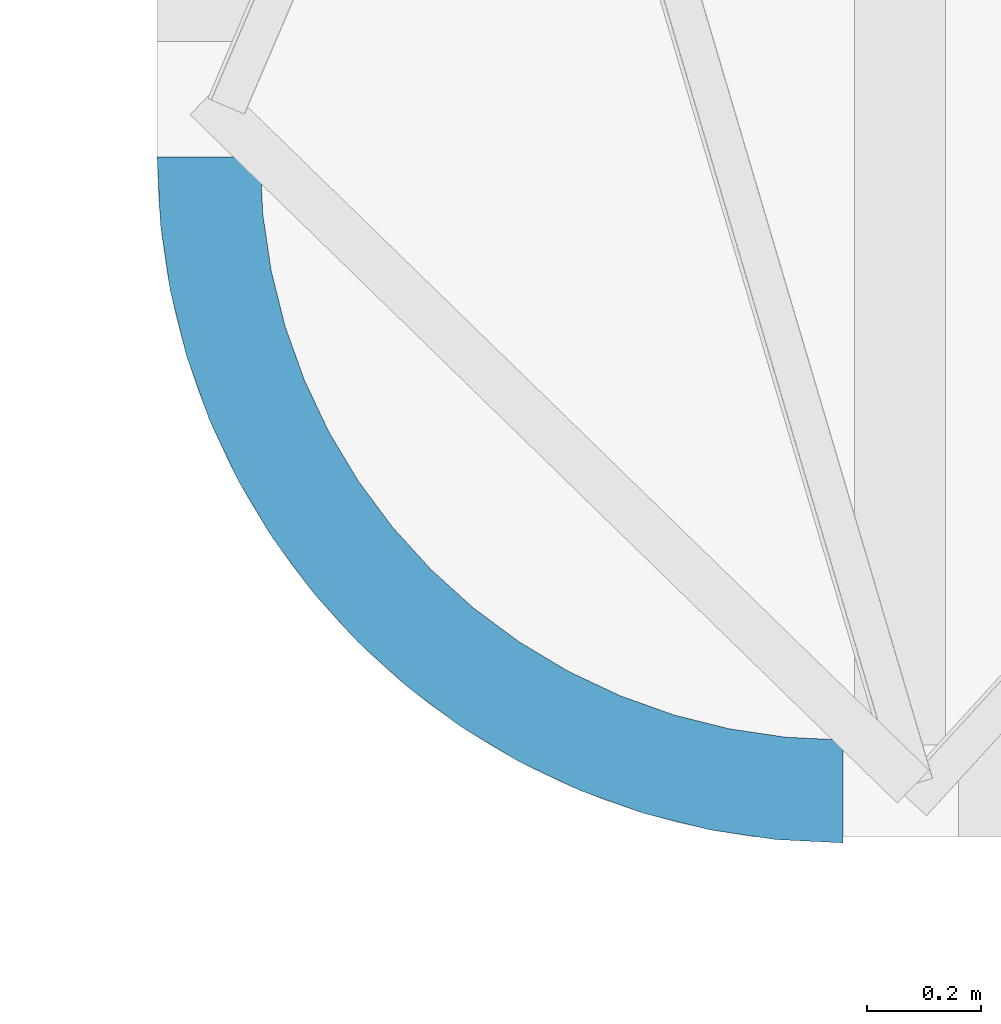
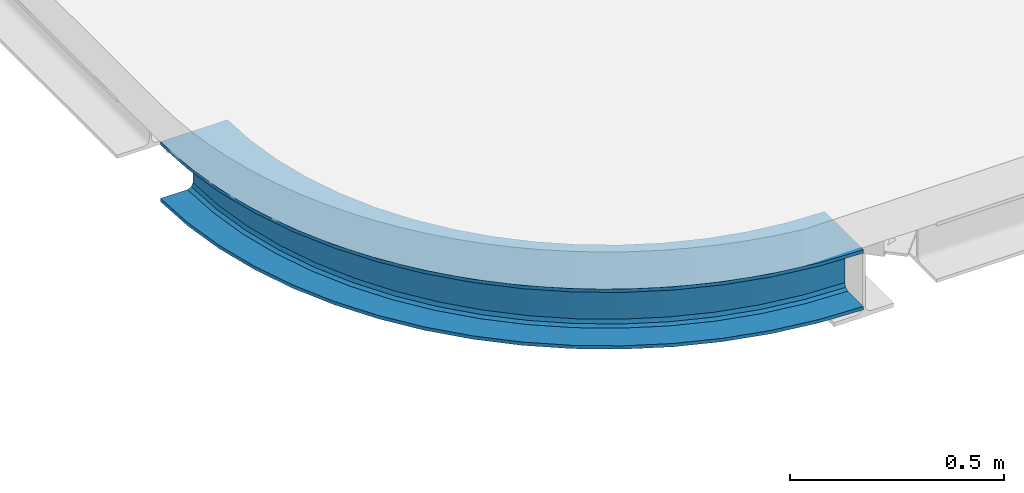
# One storey, part 11 of 14: 1 beam.
"""IFC2X3 building model written with IfcOpenShell, lengths in millimetres."""

from ifc_helpers import new_model, entity, si_unit, converted_unit, derived_unit, direction, frame, origin, place, context, subcontext, project, spatial, faceted_brep, material, type_object, element, save


model = new_model("IFC2X3")

# Units and contexts
model_context = context("Model", 3, precision=0.01, world=origin(), true_north=direction((6.123031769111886e-17, 1.0)))
body_context = subcontext(model_context, "Body", "Model", "MODEL_VIEW")
ifc_project = project(units=[si_unit("LENGTHUNIT", "METRE", prefix="MILLI"), si_unit("AREAUNIT", "SQUARE_METRE"), si_unit("VOLUMEUNIT", "CUBIC_METRE"), derived_unit("MASSDENSITYUNIT", [(si_unit("MASSUNIT", "GRAM", prefix="KILO"), 1), (si_unit("LENGTHUNIT", "METRE"), -3)]), si_unit("MASSUNIT", "GRAM", prefix="KILO"), converted_unit("PLANEANGLEUNIT", "DEGREE", entity("IfcPlaneAngleMeasure", 0.017453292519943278), si_unit("PLANEANGLEUNIT", "RADIAN"), dimensions=[0, 0, 0, 0, 0, 0, 0])], contexts=[model_context])

# Site, building, storey
site_placement = place(None, origin())
site = spatial("IfcSite", under=ifc_project, at=site_placement, Name="Default", CompositionType="ELEMENT")
building_placement = place(site_placement, origin())
building = spatial("IfcBuilding", under=site, at=building_placement, Name="AT constructie", CompositionType="ELEMENT")
storey_placement = place(building_placement, frame((0.0, 0.0, 12043.0)))
storey = spatial("IfcBuildingStorey", under=building, at=storey_placement, Name="03 derde verdieping", CompositionType="ELEMENT", Elevation=12043.0)

# Beam
ifc_material = material(Name="h2_staal_S355")
beam_type = type_object("IfcBeamType", Name="balk HE_gen_HEA180", PredefinedType="NOTDEFINED")
beam_placement = place(storey_placement, frame((85626.87463111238, 24351.04350852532, 0.0), z_axis=(0.0, 0.0, -1.0), x_axis=(-1.0, 0.0, 0.0)))
element("IfcBeam", 1, at=beam_placement, inside=storey, type_object=beam_type, material=ifc_material, Name="NLRS_28_SF_LIB_balk HEA_gen_AT:balk HE_gen_HEA180", ObjectType="NLRS_28_SF_LIB_balk HEA_gen_AT:balk HE_gen_HEA180", context=body_context, shape_type="Brep", body=[
    faceted_brep([(1194.2216720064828, -117.62056839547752, 0.0), (1015.0884212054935, -99.97748313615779, 0.0), (1020.0, 0.0, 0.0), (1200.0, 0.0, 0.0), (1015.0884212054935, -99.97748313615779, 9.500000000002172), (1020.0, 0.0, 9.500000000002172), (1086.741721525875, -107.03471723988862, 9.500000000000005), (1092.0, 0.0, 9.500000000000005), (1097.297249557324, -108.0743460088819, 13.893398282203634), (1102.6066017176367, 0.0, 13.893398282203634), (1101.6694924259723, -108.50497434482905, 24.500000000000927), (1107.0, 0.0, 24.500000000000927), (1101.6694924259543, -108.50497434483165, 146.50000000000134), (1107.0, 0.0, 146.50000000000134), (1097.297249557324, -108.0743460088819, 157.10660171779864), (1102.6066017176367, 0.0, 157.10660171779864), (1086.7417215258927, -107.03471723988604, 161.50000000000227), (1092.0, 0.0, 161.50000000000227), (1015.0884212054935, -99.97748313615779, 161.50000000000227), (1020.0, 0.0, 161.50000000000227), (1015.0884212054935, -99.97748313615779, 171.0), (1020.0, 0.0, 171.0), (1194.2216720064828, -117.62056839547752, 171.0), (1200.0, 0.0, 171.0), (1194.2216720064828, -117.62056839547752, 161.50000000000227), (1200.0, 0.0, 161.50000000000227), (1122.5683716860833, -110.5633342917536, 161.50000000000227), (1128.0, 0.0, 161.50000000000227), (1112.012843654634, -109.52370552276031, 157.10660171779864), (1117.393398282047, 0.0, 157.10660171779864), (1107.6406007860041, -109.09307718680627, 146.50000000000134), (1113.0, 0.0, 146.50000000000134), (1107.6406007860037, -109.09307718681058, 24.500000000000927), (1113.0, 0.0, 24.500000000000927), (1112.012843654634, -109.52370552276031, 13.893398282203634), (1117.393398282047, 0.0, 13.893398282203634), (1122.5683716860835, -110.5633342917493, 9.500000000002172), (1128.0, 0.0, 9.500000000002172), (1194.2216720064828, -117.62056839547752, 9.500000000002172), (1200.0, 0.0, 9.500000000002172), (1176.942336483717, -234.10838641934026, 0.0), (1000.4009860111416, -198.99212845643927, 0.0), (1000.4009860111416, -198.99212845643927, 9.500000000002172), (1071.0175262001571, -213.0386316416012, 9.500000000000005), (1081.4203250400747, -215.1078769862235, 13.893398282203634), (1085.7293054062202, -215.96498647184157, 24.500000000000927), (1085.7293054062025, -215.96498647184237, 146.50000000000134), (1081.4203250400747, -215.1078769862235, 157.10660171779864), (1071.0175262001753, -213.03863164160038, 161.50000000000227), (1000.4009860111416, -198.99212845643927, 161.50000000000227), (1000.4009860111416, -198.99212845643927, 171.0), (1176.942336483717, -234.10838641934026, 171.0), (1176.942336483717, -234.10838641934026, 161.50000000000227), (1106.3257962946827, -220.06188323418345, 161.50000000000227), (1095.9229974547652, -217.99263788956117, 157.10660171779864), (1091.6140170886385, -217.13552840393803, 146.50000000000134), (1091.6140170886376, -217.13552840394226, 24.500000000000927), (1095.9229974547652, -217.99263788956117, 13.893398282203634), (1106.3257962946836, -220.06188323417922, 9.500000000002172), (1176.942336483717, -234.10838641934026, 9.500000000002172), (1148.32840287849, -348.34161270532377, 0.0), (976.079142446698, -296.0903707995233, 0.0), (976.079142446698, -296.0903707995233, 9.500000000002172), (1044.9788466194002, -316.9908675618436, 9.500000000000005), (1055.1287316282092, -320.0698015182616, 13.893398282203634), (1059.3329516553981, -321.34513772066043, 24.500000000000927), (1059.33295165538, -321.34513772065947, 146.50000000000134), (1055.1287316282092, -320.0698015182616, 157.10660171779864), (1044.978846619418, -316.99086756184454, 161.50000000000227), (976.079142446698, -296.0903707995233, 161.50000000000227), (976.079142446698, -296.0903707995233, 171.0), (1148.32840287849, -348.34161270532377, 171.0), (1148.32840287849, -348.34161270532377, 161.50000000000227), (1079.4286987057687, -327.44111594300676, 161.50000000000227), (1069.2788136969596, -324.3621819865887, 157.10660171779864), (1065.07459366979, -323.0868457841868, 146.50000000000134), (1065.0745936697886, -323.0868457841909, 24.500000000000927), (1069.2788136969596, -324.3621819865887, 13.893398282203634), (1079.4286987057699, -327.4411159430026, 9.500000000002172), (1148.32840287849, -348.34161270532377, 9.500000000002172), (1108.6554390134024, -459.220118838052, 0.0), (942.3571231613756, -390.3371010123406, 0.0), (942.3571231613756, -390.3371010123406, 9.500000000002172), (1008.8764495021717, -417.89030814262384, 9.500000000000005), (1018.6756717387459, -421.94927889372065, 13.893398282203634), (1022.7346424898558, -423.63055962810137, 24.500000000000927), (1022.7346424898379, -423.63055962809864, 146.50000000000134), (1018.6756717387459, -421.94927889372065, 157.10660171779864), (1008.8764495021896, -417.8903081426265, 161.50000000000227), (942.3571231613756, -390.3371010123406, 161.50000000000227), (942.3571231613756, -390.3371010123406, 171.0), (1108.6554390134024, -459.220118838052, 171.0), (1108.6554390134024, -459.220118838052, 161.50000000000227), (1042.136112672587, -431.6669117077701, 161.50000000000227), (1032.3368904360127, -427.6079409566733, 157.10660171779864), (1028.2779196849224, -425.9266602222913, 146.50000000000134), (1028.2779196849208, -425.92666022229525, 24.500000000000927), (1032.3368904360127, -427.6079409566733, 13.893398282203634), (1042.1361126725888, -431.66691170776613, 9.500000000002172), (1108.6554390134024, -459.220118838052, 9.500000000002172), (1058.3055172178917, -565.6760841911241, 0.0), (899.5596896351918, -480.8246715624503, 0.0), (899.5596896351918, -480.8246715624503, 9.500000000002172), (963.0580206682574, -514.7652366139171, 9.500000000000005), (972.4122082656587, -519.7651540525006, 13.893398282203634), (976.2868396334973, -521.8361876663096, 24.500000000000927), (976.28683963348, -521.8361876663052, 146.50000000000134), (972.4122082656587, -519.7651540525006, 157.10660171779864), (963.0580206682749, -514.7652366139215, 161.50000000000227), (899.5596896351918, -480.8246715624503, 161.50000000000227), (899.5596896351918, -480.8246715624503, 171.0), (1058.3055172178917, -565.6760841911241, 171.0), (1058.3055172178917, -565.6760841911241, 161.50000000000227), (994.8071861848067, -531.7355191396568, 161.50000000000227), (985.4529985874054, -526.7356017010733, 157.10660171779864), (981.5783672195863, -524.6645680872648, 146.50000000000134), (981.5783672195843, -524.6645680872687, 24.500000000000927), (985.4529985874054, -526.7356017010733, 13.893398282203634), (994.8071861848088, -531.735519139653, 9.500000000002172), (1058.3055172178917, -565.6760841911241, 9.500000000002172), (997.7635347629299, -666.6842796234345, 0.0), (848.0990045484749, -566.6816376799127, 0.0), (848.0990045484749, -566.6816376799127, 9.500000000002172), (907.964816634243, -606.6826944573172, 9.500000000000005), (916.7838836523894, -612.575406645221, 13.893398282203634), (920.4368608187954, -615.0162479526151, 24.500000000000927), (920.4368608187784, -615.0162479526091, 146.50000000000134), (916.7838836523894, -612.575406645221, 157.10660171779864), (907.9648166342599, -606.6826944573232, 161.50000000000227), (848.0990045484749, -566.6816376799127, 161.50000000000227), (848.0990045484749, -566.6816376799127, 171.0), (997.7635347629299, -666.6842796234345, 171.0), (997.7635347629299, -666.6842796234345, 161.50000000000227), (937.8977226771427, -626.6832228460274, 161.50000000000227), (929.0786556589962, -620.7905106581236, 157.10660171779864), (925.4256784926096, -618.3496693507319, 146.50000000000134), (925.4256784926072, -618.3496693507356, 24.500000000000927), (929.0786556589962, -620.7905106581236, 13.893398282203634), (937.8977226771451, -626.6832228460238, 9.500000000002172), (997.7635347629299, -666.6842796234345, 9.500000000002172), (927.6125440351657, -761.2719409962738, 0.0), (788.4706624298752, -647.0811498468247, 0.0), (788.4706624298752, -647.0811498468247, 9.500000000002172), (844.1274150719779, -692.7574663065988, 9.500000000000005), (852.3264290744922, -699.4862232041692, 13.893398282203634), (855.7225718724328, -702.2733655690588, 24.500000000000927), (855.7225718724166, -702.2733655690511, 146.50000000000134), (852.3264290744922, -699.4862232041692, 157.10660171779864), (844.1274150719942, -692.7574663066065, 161.50000000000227), (788.4706624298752, -647.0811498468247, 161.50000000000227), (788.4706624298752, -647.0811498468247, 171.0), (927.6125440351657, -761.2719409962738, 171.0), (927.6125440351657, -761.2719409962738, 161.50000000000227), (871.9557913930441, -715.5956245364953, 161.50000000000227), (863.7567773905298, -708.8668676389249, 157.10660171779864), (860.3606345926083, -706.0797252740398, 146.50000000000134), (860.3606345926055, -706.0797252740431, 24.500000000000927), (863.7567773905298, -708.8668676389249, 13.893398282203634), (871.9557913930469, -715.595624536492, 9.500000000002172), (927.6125440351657, -761.2719409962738, 9.500000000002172), (848.5281374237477, -848.5281374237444, 0.0), (721.2489168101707, -721.2489168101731, 0.0), (721.2489168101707, -721.2489168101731, 9.500000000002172), (772.1606050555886, -772.1606050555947, 9.500000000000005), (779.6606050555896, -779.6606050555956, 13.893398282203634), (782.7672067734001, -782.7672067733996, 24.500000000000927), (782.7672067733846, -782.7672067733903, 146.50000000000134), (779.6606050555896, -779.6606050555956, 157.10660171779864), (772.160605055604, -772.160605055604, 161.50000000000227), (721.2489168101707, -721.2489168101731, 161.50000000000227), (721.2489168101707, -721.2489168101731, 171.0), (848.5281374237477, -848.5281374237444, 171.0), (848.5281374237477, -848.5281374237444, 161.50000000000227), (797.6164491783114, -797.6164491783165, 161.50000000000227), (790.1164491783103, -790.1164491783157, 157.10660171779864), (787.0098474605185, -787.0098474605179, 146.50000000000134), (787.0098474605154, -787.009847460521, 24.500000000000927), (790.1164491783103, -790.1164491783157, 13.893398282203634), (797.6164491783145, -797.6164491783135, 9.500000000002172), (848.5281374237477, -848.5281374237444, 9.500000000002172), (761.27194099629, -927.6125440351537, 0.0), (647.0811498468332, -788.4706624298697, 0.0), (647.0811498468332, -788.4706624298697, 9.500000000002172), (692.7574663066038, -844.1274150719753, 9.500000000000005), (699.4862232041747, -852.3264290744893, 13.893398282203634), (702.2733655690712, -855.7225718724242, 24.500000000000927), (702.2733655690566, -855.7225718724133, 146.50000000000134), (699.4862232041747, -852.3264290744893, 157.10660171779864), (692.7574663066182, -844.127415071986, 161.50000000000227), (647.0811498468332, -788.4706624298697, 161.50000000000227), (647.0811498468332, -788.4706624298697, 171.0), (761.27194099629, -927.6125440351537, 171.0), (761.27194099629, -927.6125440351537, 161.50000000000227), (715.5956245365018, -871.9557913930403, 161.50000000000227), (708.866867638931, -863.7567773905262, 157.10660171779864), (706.0797252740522, -860.3606345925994, 146.50000000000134), (706.0797252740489, -860.3606345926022, 24.500000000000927), (708.866867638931, -863.7567773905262, 13.893398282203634), (715.595624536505, -871.9557913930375, 9.500000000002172), (761.27194099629, -927.6125440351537, 9.500000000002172), (666.6842796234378, -997.7635347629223, 0.0), (566.6816376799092, -848.0990045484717, 0.0), (566.6816376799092, -848.0990045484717, 9.500000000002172), (606.6826944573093, -907.9648166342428, 9.500000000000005), (612.5754066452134, -916.7838836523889, 13.893398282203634), (615.016247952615, -920.43686081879, 24.500000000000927), (615.0162479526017, -920.4368608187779, 146.50000000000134), (612.5754066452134, -916.7838836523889, 157.10660171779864), (606.6826944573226, -907.9648166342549, 161.50000000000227), (566.6816376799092, -848.0990045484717, 161.50000000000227), (566.6816376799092, -848.0990045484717, 171.0), (666.6842796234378, -997.7635347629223, 171.0), (666.6842796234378, -997.7635347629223, 161.50000000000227), (626.6832228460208, -937.8977226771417, 161.50000000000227), (620.7905106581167, -929.0786556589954, 157.10660171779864), (618.349669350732, -925.4256784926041, 146.50000000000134), (618.3496693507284, -925.4256784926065, 24.500000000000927), (620.7905106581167, -929.0786556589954, 13.893398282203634), (626.6832228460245, -937.8977226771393, 9.500000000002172), (666.6842796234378, -997.7635347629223, 9.500000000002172), (565.6760841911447, -1058.3055172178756, 0.0), (480.8246715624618, -899.5596896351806, 0.0), (480.8246715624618, -899.5596896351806, 9.500000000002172), (514.7652366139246, -963.0580206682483, 9.500000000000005), (519.7651540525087, -972.4122082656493, 13.893398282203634), (521.8361876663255, -976.2868396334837, 24.500000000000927), (521.8361876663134, -976.2868396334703, 146.50000000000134), (519.7651540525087, -972.4122082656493, 157.10660171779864), (514.7652366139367, -963.0580206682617, 161.50000000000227), (480.8246715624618, -899.5596896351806, 161.50000000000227), (480.8246715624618, -899.5596896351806, 171.0), (565.6760841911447, -1058.3055172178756, 171.0), (565.6760841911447, -1058.3055172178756, 161.50000000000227), (531.735519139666, -994.8071861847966, 161.50000000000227), (526.735601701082, -985.4529985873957, 157.10660171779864), (524.664568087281, -981.5783672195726, 146.50000000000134), (524.6645680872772, -981.5783672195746, 24.500000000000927), (526.735601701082, -985.4529985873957, 13.893398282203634), (531.7355191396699, -994.8071861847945, 9.500000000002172), (565.6760841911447, -1058.3055172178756, 9.500000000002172), (459.22011883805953, -1108.655439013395, 0.0), (390.3371010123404, -942.3571231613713, 0.0), (390.3371010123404, -942.3571231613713, 9.500000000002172), (417.89030814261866, -1008.8764495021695, 9.500000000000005), (421.94927889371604, -1018.6756717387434, 13.893398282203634), (423.6305596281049, -1022.73464248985, 24.500000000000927), (423.6305596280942, -1022.7346424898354, 146.50000000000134), (421.94927889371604, -1018.6756717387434, 157.10660171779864), (417.8903081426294, -1008.876449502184, 161.50000000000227), (390.3371010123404, -942.3571231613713, 161.50000000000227), (390.3371010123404, -942.3571231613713, 171.0), (459.22011883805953, -1108.655439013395, 171.0), (459.22011883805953, -1108.655439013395, 161.50000000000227), (431.6669117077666, -1042.136112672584, 161.50000000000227), (427.60794095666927, -1032.33689043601, 157.10660171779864), (425.9266602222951, -1028.2779196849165, 146.50000000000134), (425.9266602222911, -1028.277919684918, 24.500000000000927), (427.60794095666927, -1032.33689043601, 13.893398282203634), (431.66691170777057, -1042.1361126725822, 9.500000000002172), (459.22011883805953, -1108.655439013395, 9.500000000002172), (348.3416127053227, -1148.3284028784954, 0.0), (296.0903707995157, -976.0791424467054, 0.0), (296.0903707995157, -976.0791424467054, 9.500000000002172), (316.9908675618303, -1044.9788466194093, 9.500000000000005), (320.0698015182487, -1055.128731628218, 13.893398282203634), (321.3451377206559, -1059.3329516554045, 24.500000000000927), (321.3451377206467, -1059.332951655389, 146.50000000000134), (320.0698015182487, -1055.128731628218, 157.10660171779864), (316.9908675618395, -1044.9788466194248, 161.50000000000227), (296.0903707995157, -976.0791424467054, 161.50000000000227), (296.0903707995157, -976.0791424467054, 171.0), (348.3416127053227, -1148.3284028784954, 171.0), (348.3416127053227, -1148.3284028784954, 161.50000000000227), (327.4411159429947, -1079.4286987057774, 161.50000000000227), (324.3621819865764, -1069.2788136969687, 157.10660171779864), (323.08684578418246, -1065.0745936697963, 146.50000000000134), (323.0868457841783, -1065.0745936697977, 24.500000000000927), (324.3621819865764, -1069.2788136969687, 13.893398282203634), (327.44111594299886, -1079.4286987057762, 9.500000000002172), (348.3416127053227, -1148.3284028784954, 9.500000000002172), (234.10838641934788, -1176.9423364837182, 0.0), (198.99212845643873, -1000.4009860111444, 0.0), (198.99212845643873, -1000.4009860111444, 9.500000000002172), (213.0386316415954, -1071.0175262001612, 9.500000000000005), (215.10787698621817, -1081.4203250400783, 13.893398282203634), (215.96498647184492, -1085.7293054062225, 24.500000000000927), (215.96498647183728, -1085.7293054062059, 146.50000000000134), (215.10787698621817, -1081.4203250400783, 157.10660171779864), (213.03863164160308, -1071.0175262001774, 161.50000000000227), (198.99212845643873, -1000.4009860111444, 161.50000000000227), (198.99212845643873, -1000.4009860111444, 171.0), (234.10838641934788, -1176.9423364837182, 171.0), (234.10838641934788, -1176.9423364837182, 161.50000000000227), (220.0618832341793, -1106.3257962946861, 161.50000000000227), (217.99263788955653, -1095.9229974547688, 157.10660171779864), (217.13552840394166, -1091.6140170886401, 146.50000000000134), (217.13552840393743, -1091.614017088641, 24.500000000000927), (217.99263788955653, -1095.9229974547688, 13.893398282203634), (220.06188323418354, -1106.3257962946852, 9.500000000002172), (234.10838641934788, -1176.9423364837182, 9.500000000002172), (117.62056839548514, -1194.2216720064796, 0.0), (99.97748313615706, -1015.0884212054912, 0.0), (99.97748313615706, -1015.0884212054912, 9.500000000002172), (107.03471723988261, -1086.7417215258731, 9.500000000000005), (108.07434600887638, -1097.2972495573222, 13.893398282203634), (108.50497434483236, -1101.6694924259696, 24.500000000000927), (108.50497434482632, -1101.6694924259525, 146.50000000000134), (108.07434600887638, -1097.2972495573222, 157.10660171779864), (107.03471723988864, -1086.74172152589, 161.50000000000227), (99.97748313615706, -1015.0884212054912, 161.50000000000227), (99.97748313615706, -1015.0884212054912, 171.0), (117.62056839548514, -1194.2216720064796, 171.0), (117.62056839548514, -1194.2216720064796, 161.50000000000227), (110.56333429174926, -1122.568371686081, 161.50000000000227), (109.52370552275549, -1112.0128436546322, 157.10660171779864), (109.09307718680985, -1107.6406007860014, 146.50000000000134), (109.09307718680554, -1107.6406007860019, 24.500000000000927), (109.52370552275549, -1112.0128436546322, 13.893398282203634), (110.56333429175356, -1122.5683716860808, 9.500000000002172), (117.62056839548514, -1194.2216720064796, 9.500000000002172), (0.0, -1200.0, 0.0), (0.0, -1020.0, 0.0), (0.0, -1020.0, 9.500000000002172), (0.0, -1092.0, 9.500000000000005), (0.0, -1102.6066017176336, 13.893398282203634), (0.0, -1107.0, 24.500000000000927), (0.0, -1107.0, 146.50000000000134), (0.0, -1102.6066017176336, 157.10660171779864), (0.0, -1092.0, 161.50000000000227), (0.0, -1020.0, 161.50000000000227), (0.0, -1020.0, 171.0), (0.0, -1200.0, 171.0), (0.0, -1200.0, 161.50000000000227), (0.0, -1128.0, 161.50000000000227), (0.0, -1117.3933982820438, 157.10660171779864), (0.0, -1113.0, 146.50000000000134), (0.0, -1113.0, 24.500000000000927), (0.0, -1117.3933982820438, 13.893398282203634), (0.0, -1128.0, 9.500000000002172), (0.0, -1200.0, 9.500000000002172)], [[[0, 1, 2, 3]], [[1, 4, 5, 2]], [[4, 6, 7, 5]], [[6, 8, 9, 7]], [[8, 10, 11, 9]], [[10, 12, 13, 11]], [[12, 14, 15, 13]], [[14, 16, 17, 15]], [[16, 18, 19, 17]], [[18, 20, 21, 19]], [[20, 22, 23, 21]], [[22, 24, 25, 23]], [[24, 26, 27, 25]], [[26, 28, 29, 27]], [[28, 30, 31, 29]], [[30, 32, 33, 31]], [[32, 34, 35, 33]], [[34, 36, 37, 35]], [[36, 38, 39, 37]], [[38, 0, 3, 39]], [[40, 41, 1, 0]], [[41, 42, 4, 1]], [[42, 43, 6, 4]], [[43, 44, 8, 6]], [[44, 45, 10, 8]], [[45, 46, 12, 10]], [[46, 47, 14, 12]], [[47, 48, 16, 14]], [[48, 49, 18, 16]], [[49, 50, 20, 18]], [[50, 51, 22, 20]], [[51, 52, 24, 22]], [[52, 53, 26, 24]], [[53, 54, 28, 26]], [[54, 55, 30, 28]], [[55, 56, 32, 30]], [[56, 57, 34, 32]], [[57, 58, 36, 34]], [[58, 59, 38, 36]], [[59, 40, 0, 38]], [[60, 61, 41, 40]], [[61, 62, 42, 41]], [[62, 63, 43, 42]], [[63, 64, 44, 43]], [[64, 65, 45, 44]], [[65, 66, 46, 45]], [[66, 67, 47, 46]], [[67, 68, 48, 47]], [[68, 69, 49, 48]], [[69, 70, 50, 49]], [[70, 71, 51, 50]], [[71, 72, 52, 51]], [[72, 73, 53, 52]], [[73, 74, 54, 53]], [[74, 75, 55, 54]], [[75, 76, 56, 55]], [[76, 77, 57, 56]], [[77, 78, 58, 57]], [[78, 79, 59, 58]], [[79, 60, 40, 59]], [[80, 81, 61, 60]], [[81, 82, 62, 61]], [[82, 83, 63, 62]], [[83, 84, 64, 63]], [[84, 85, 65, 64]], [[85, 86, 66, 65]], [[86, 87, 67, 66]], [[87, 88, 68, 67]], [[88, 89, 69, 68]], [[89, 90, 70, 69]], [[90, 91, 71, 70]], [[91, 92, 72, 71]], [[92, 93, 73, 72]], [[93, 94, 74, 73]], [[94, 95, 75, 74]], [[95, 96, 76, 75]], [[96, 97, 77, 76]], [[97, 98, 78, 77]], [[98, 99, 79, 78]], [[99, 80, 60, 79]], [[100, 101, 81, 80]], [[101, 102, 82, 81]], [[102, 103, 83, 82]], [[103, 104, 84, 83]], [[104, 105, 85, 84]], [[105, 106, 86, 85]], [[106, 107, 87, 86]], [[107, 108, 88, 87]], [[108, 109, 89, 88]], [[109, 110, 90, 89]], [[110, 111, 91, 90]], [[111, 112, 92, 91]], [[112, 113, 93, 92]], [[113, 114, 94, 93]], [[114, 115, 95, 94]], [[115, 116, 96, 95]], [[116, 117, 97, 96]], [[117, 118, 98, 97]], [[118, 119, 99, 98]], [[119, 100, 80, 99]], [[120, 121, 101, 100]], [[121, 122, 102, 101]], [[122, 123, 103, 102]], [[123, 124, 104, 103]], [[124, 125, 105, 104]], [[125, 126, 106, 105]], [[126, 127, 107, 106]], [[127, 128, 108, 107]], [[128, 129, 109, 108]], [[129, 130, 110, 109]], [[130, 131, 111, 110]], [[131, 132, 112, 111]], [[132, 133, 113, 112]], [[133, 134, 114, 113]], [[134, 135, 115, 114]], [[135, 136, 116, 115]], [[136, 137, 117, 116]], [[137, 138, 118, 117]], [[138, 139, 119, 118]], [[139, 120, 100, 119]], [[140, 141, 121, 120]], [[141, 142, 122, 121]], [[142, 143, 123, 122]], [[143, 144, 124, 123]], [[144, 145, 125, 124]], [[145, 146, 126, 125]], [[146, 147, 127, 126]], [[147, 148, 128, 127]], [[148, 149, 129, 128]], [[149, 150, 130, 129]], [[150, 151, 131, 130]], [[151, 152, 132, 131]], [[152, 153, 133, 132]], [[153, 154, 134, 133]], [[154, 155, 135, 134]], [[155, 156, 136, 135]], [[156, 157, 137, 136]], [[157, 158, 138, 137]], [[158, 159, 139, 138]], [[159, 140, 120, 139]], [[160, 161, 141, 140]], [[161, 162, 142, 141]], [[162, 163, 143, 142]], [[163, 164, 144, 143]], [[164, 165, 145, 144]], [[165, 166, 146, 145]], [[166, 167, 147, 146]], [[167, 168, 148, 147]], [[168, 169, 149, 148]], [[169, 170, 150, 149]], [[170, 171, 151, 150]], [[171, 172, 152, 151]], [[172, 173, 153, 152]], [[173, 174, 154, 153]], [[174, 175, 155, 154]], [[175, 176, 156, 155]], [[176, 177, 157, 156]], [[177, 178, 158, 157]], [[178, 179, 159, 158]], [[179, 160, 140, 159]], [[180, 181, 161, 160]], [[181, 182, 162, 161]], [[182, 183, 163, 162]], [[183, 184, 164, 163]], [[184, 185, 165, 164]], [[185, 186, 166, 165]], [[186, 187, 167, 166]], [[187, 188, 168, 167]], [[188, 189, 169, 168]], [[189, 190, 170, 169]], [[190, 191, 171, 170]], [[191, 192, 172, 171]], [[192, 193, 173, 172]], [[193, 194, 174, 173]], [[194, 195, 175, 174]], [[195, 196, 176, 175]], [[196, 197, 177, 176]], [[197, 198, 178, 177]], [[198, 199, 179, 178]], [[199, 180, 160, 179]], [[200, 201, 181, 180]], [[201, 202, 182, 181]], [[202, 203, 183, 182]], [[203, 204, 184, 183]], [[204, 205, 185, 184]], [[205, 206, 186, 185]], [[206, 207, 187, 186]], [[207, 208, 188, 187]], [[208, 209, 189, 188]], [[209, 210, 190, 189]], [[210, 211, 191, 190]], [[211, 212, 192, 191]], [[212, 213, 193, 192]], [[213, 214, 194, 193]], [[214, 215, 195, 194]], [[215, 216, 196, 195]], [[216, 217, 197, 196]], [[217, 218, 198, 197]], [[218, 219, 199, 198]], [[219, 200, 180, 199]], [[220, 221, 201, 200]], [[221, 222, 202, 201]], [[222, 223, 203, 202]], [[223, 224, 204, 203]], [[224, 225, 205, 204]], [[225, 226, 206, 205]], [[226, 227, 207, 206]], [[227, 228, 208, 207]], [[228, 229, 209, 208]], [[229, 230, 210, 209]], [[230, 231, 211, 210]], [[231, 232, 212, 211]], [[232, 233, 213, 212]], [[233, 234, 214, 213]], [[234, 235, 215, 214]], [[235, 236, 216, 215]], [[236, 237, 217, 216]], [[237, 238, 218, 217]], [[238, 239, 219, 218]], [[239, 220, 200, 219]], [[240, 241, 221, 220]], [[241, 242, 222, 221]], [[242, 243, 223, 222]], [[243, 244, 224, 223]], [[244, 245, 225, 224]], [[245, 246, 226, 225]], [[246, 247, 227, 226]], [[247, 248, 228, 227]], [[248, 249, 229, 228]], [[249, 250, 230, 229]], [[250, 251, 231, 230]], [[251, 252, 232, 231]], [[252, 253, 233, 232]], [[253, 254, 234, 233]], [[254, 255, 235, 234]], [[255, 256, 236, 235]], [[256, 257, 237, 236]], [[257, 258, 238, 237]], [[258, 259, 239, 238]], [[259, 240, 220, 239]], [[260, 261, 241, 240]], [[261, 262, 242, 241]], [[262, 263, 243, 242]], [[263, 264, 244, 243]], [[264, 265, 245, 244]], [[265, 266, 246, 245]], [[266, 267, 247, 246]], [[267, 268, 248, 247]], [[268, 269, 249, 248]], [[269, 270, 250, 249]], [[270, 271, 251, 250]], [[271, 272, 252, 251]], [[272, 273, 253, 252]], [[273, 274, 254, 253]], [[274, 275, 255, 254]], [[275, 276, 256, 255]], [[276, 277, 257, 256]], [[277, 278, 258, 257]], [[278, 279, 259, 258]], [[279, 260, 240, 259]], [[280, 281, 261, 260]], [[281, 282, 262, 261]], [[282, 283, 263, 262]], [[283, 284, 264, 263]], [[284, 285, 265, 264]], [[285, 286, 266, 265]], [[286, 287, 267, 266]], [[287, 288, 268, 267]], [[288, 289, 269, 268]], [[289, 290, 270, 269]], [[290, 291, 271, 270]], [[291, 292, 272, 271]], [[292, 293, 273, 272]], [[293, 294, 274, 273]], [[294, 295, 275, 274]], [[295, 296, 276, 275]], [[296, 297, 277, 276]], [[297, 298, 278, 277]], [[298, 299, 279, 278]], [[299, 280, 260, 279]], [[300, 301, 281, 280]], [[301, 302, 282, 281]], [[302, 303, 283, 282]], [[303, 304, 284, 283]], [[304, 305, 285, 284]], [[305, 306, 286, 285]], [[306, 307, 287, 286]], [[307, 308, 288, 287]], [[308, 309, 289, 288]], [[309, 310, 290, 289]], [[310, 311, 291, 290]], [[311, 312, 292, 291]], [[312, 313, 293, 292]], [[313, 314, 294, 293]], [[314, 315, 295, 294]], [[315, 316, 296, 295]], [[316, 317, 297, 296]], [[317, 318, 298, 297]], [[318, 319, 299, 298]], [[319, 300, 280, 299]], [[320, 321, 301, 300]], [[321, 322, 302, 301]], [[322, 323, 303, 302]], [[323, 324, 304, 303]], [[324, 325, 305, 304]], [[325, 326, 306, 305]], [[326, 327, 307, 306]], [[327, 328, 308, 307]], [[328, 329, 309, 308]], [[329, 330, 310, 309]], [[330, 331, 311, 310]], [[331, 332, 312, 311]], [[332, 333, 313, 312]], [[333, 334, 314, 313]], [[334, 335, 315, 314]], [[335, 336, 316, 315]], [[336, 337, 317, 316]], [[337, 338, 318, 317]], [[338, 339, 319, 318]], [[339, 320, 300, 319]], [[3, 2, 5, 7, 9, 11, 13, 15, 17, 19, 21, 23, 25, 27, 29, 31, 33, 35, 37, 39]], [[339, 338, 337, 336, 335, 334, 333, 332, 331, 330, 329, 328, 327, 326, 325, 324, 323, 322, 321, 320]]]),
])

save(model, "model.ifc")
